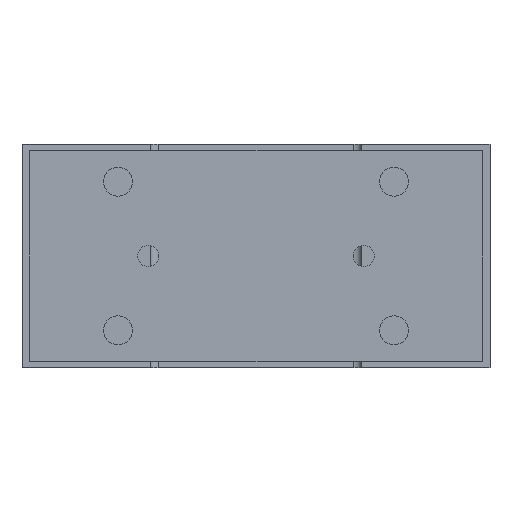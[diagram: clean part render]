
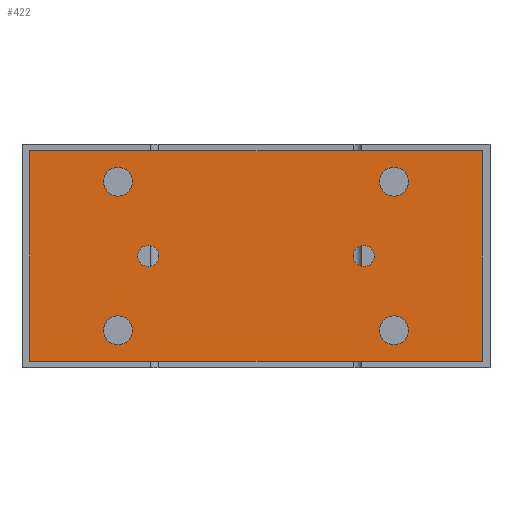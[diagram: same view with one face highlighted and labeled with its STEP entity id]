
A CAD part, left-side view. The second image highlights one B-rep face of the part: STEP entity #422.
In plain terms, the highlighted planar face has unit normal (-1, 0, 0).
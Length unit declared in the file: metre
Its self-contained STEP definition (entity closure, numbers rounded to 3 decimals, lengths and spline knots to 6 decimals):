
#422 = ADVANCED_FACE( '', ( #1021, #1022, #1023, #1024, #1025, #1026, #1027 ), #1028, .T. );
#1021 = FACE_BOUND( '', #1821, .T. );
#1022 = FACE_BOUND( '', #1822, .T. );
#1023 = FACE_BOUND( '', #1823, .T. );
#1024 = FACE_BOUND( '', #1824, .T. );
#1025 = FACE_BOUND( '', #1825, .T. );
#1026 = FACE_BOUND( '', #1826, .T. );
#1027 = FACE_OUTER_BOUND( '', #1827, .T. );
#1028 = PLANE( '', #1828 );
#1821 = EDGE_LOOP( '', ( #2961 ) );
#1822 = EDGE_LOOP( '', ( #2962 ) );
#1823 = EDGE_LOOP( '', ( #2963 ) );
#1824 = EDGE_LOOP( '', ( #2964 ) );
#1825 = EDGE_LOOP( '', ( #2965 ) );
#1826 = EDGE_LOOP( '', ( #2966 ) );
#1827 = EDGE_LOOP( '', ( #2967, #2968, #2969, #2970 ) );
#1828 = AXIS2_PLACEMENT_3D( '', #2971, #2972, #2973 );
#2961 = ORIENTED_EDGE( '', *, *, #4147, .F. );
#2962 = ORIENTED_EDGE( '', *, *, #3826, .F. );
#2963 = ORIENTED_EDGE( '', *, *, #4148, .F. );
#2964 = ORIENTED_EDGE( '', *, *, #4025, .F. );
#2965 = ORIENTED_EDGE( '', *, *, #4149, .F. );
#2966 = ORIENTED_EDGE( '', *, *, #4150, .T. );
#2967 = ORIENTED_EDGE( '', *, *, #4047, .T. );
#2968 = ORIENTED_EDGE( '', *, *, #4151, .T. );
#2969 = ORIENTED_EDGE( '', *, *, #4152, .T. );
#2970 = ORIENTED_EDGE( '', *, *, #4153, .T. );
#2971 = CARTESIAN_POINT( '', ( -0.118, -0.086, -0.0025 ) );
#2972 = DIRECTION( '', ( -1., 0., 0. ) );
#2973 = DIRECTION( '', ( 0., 0., 1. ) );
#3826 = EDGE_CURVE( '', #4402, #4402, #4403, .T. );
#4025 = EDGE_CURVE( '', #4738, #4738, #4739, .T. );
#4047 = EDGE_CURVE( '', #4773, #4771, #4774, .T. );
#4147 = EDGE_CURVE( '', #4919, #4919, #4920, .T. );
#4148 = EDGE_CURVE( '', #4921, #4921, #4922, .T. );
#4149 = EDGE_CURVE( '', #4923, #4923, #4924, .T. );
#4150 = EDGE_CURVE( '', #4925, #4925, #4926, .T. );
#4151 = EDGE_CURVE( '', #4771, #4927, #4928, .T. );
#4152 = EDGE_CURVE( '', #4927, #4929, #4930, .T. );
#4153 = EDGE_CURVE( '', #4929, #4773, #4931, .T. );
#4402 = VERTEX_POINT( '', #5303 );
#4403 = CIRCLE( '', #5304, 0.0055 );
#4738 = VERTEX_POINT( '', #5743 );
#4739 = CIRCLE( '', #5744, 0.0055 );
#4771 = VERTEX_POINT( '', #5789 );
#4773 = VERTEX_POINT( '', #5792 );
#4774 = LINE( '', #5793, #5794 );
#4919 = VERTEX_POINT( '', #6003 );
#4920 = CIRCLE( '', #6004, 0.0055 );
#4921 = VERTEX_POINT( '', #6005 );
#4922 = CIRCLE( '', #6006, 0.0055 );
#4923 = VERTEX_POINT( '', #6007 );
#4924 = CIRCLE( '', #6008, 0.004 );
#4925 = VERTEX_POINT( '', #6009 );
#4926 = CIRCLE( '', #6010, 0.004 );
#4927 = VERTEX_POINT( '', #6011 );
#4928 = LINE( '', #6012, #6013 );
#4929 = VERTEX_POINT( '', #6014 );
#4930 = LINE( '', #6015, #6016 );
#4931 = LINE( '', #6017, #6018 );
#5303 = CARTESIAN_POINT( '', ( -0.118, 0.0525, -0.06525 ) );
#5304 = AXIS2_PLACEMENT_3D( '', #6522, #6523, #6524 );
#5743 = CARTESIAN_POINT( '', ( -0.118, 0.0525, -0.00875 ) );
#5744 = AXIS2_PLACEMENT_3D( '', #6779, #6780, #6781 );
#5789 = CARTESIAN_POINT( '', ( -0.118, -0.086, -0.0025 ) );
#5792 = CARTESIAN_POINT( '', ( -0.118, -0.086, -0.0825 ) );
#5793 = CARTESIAN_POINT( '', ( -0.118, -0.086, -0.0825 ) );
#5794 = VECTOR( '', #6802, 1. );
#6003 = CARTESIAN_POINT( '', ( -0.118, -0.0525, -0.06525 ) );
#6004 = AXIS2_PLACEMENT_3D( '', #6927, #6928, #6929 );
#6005 = CARTESIAN_POINT( '', ( -0.118, -0.0525, -0.00875 ) );
#6006 = AXIS2_PLACEMENT_3D( '', #6930, #6931, #6932 );
#6007 = CARTESIAN_POINT( '', ( -0.118, -0.037, -0.0425 ) );
#6008 = AXIS2_PLACEMENT_3D( '', #6933, #6934, #6935 );
#6009 = CARTESIAN_POINT( '', ( -0.118, 0.037, -0.0425 ) );
#6010 = AXIS2_PLACEMENT_3D( '', #6936, #6937, #6938 );
#6011 = CARTESIAN_POINT( '', ( -0.118, 0.086, -0.0025 ) );
#6012 = CARTESIAN_POINT( '', ( -0.118, -0.086, -0.0025 ) );
#6013 = VECTOR( '', #6939, 1. );
#6014 = CARTESIAN_POINT( '', ( -0.118, 0.086, -0.0825 ) );
#6015 = CARTESIAN_POINT( '', ( -0.118, 0.086, -0.0025 ) );
#6016 = VECTOR( '', #6940, 1. );
#6017 = CARTESIAN_POINT( '', ( -0.118, 0.086, -0.0825 ) );
#6018 = VECTOR( '', #6941, 1. );
#6522 = CARTESIAN_POINT( '', ( -0.118, 0.0525, -0.07075 ) );
#6523 = DIRECTION( '', ( -1., 0., 0. ) );
#6524 = DIRECTION( '', ( 0., 0., 1. ) );
#6779 = CARTESIAN_POINT( '', ( -0.118, 0.0525, -0.01425 ) );
#6780 = DIRECTION( '', ( -1., 0., 0. ) );
#6781 = DIRECTION( '', ( 0., 0., 1. ) );
#6802 = DIRECTION( '', ( 0., 0., 1. ) );
#6927 = CARTESIAN_POINT( '', ( -0.118, -0.0525, -0.07075 ) );
#6928 = DIRECTION( '', ( -1., 0., 0. ) );
#6929 = DIRECTION( '', ( 0., 0., 1. ) );
#6930 = CARTESIAN_POINT( '', ( -0.118, -0.0525, -0.01425 ) );
#6931 = DIRECTION( '', ( -1., 0., 0. ) );
#6932 = DIRECTION( '', ( 0., 0., 1. ) );
#6933 = CARTESIAN_POINT( '', ( -0.118, -0.041, -0.0425 ) );
#6934 = DIRECTION( '', ( -1., 0., 0. ) );
#6935 = DIRECTION( '', ( 0., 1., 0. ) );
#6936 = CARTESIAN_POINT( '', ( -0.118, 0.041, -0.0425 ) );
#6937 = DIRECTION( '', ( 1., 0., 0. ) );
#6938 = DIRECTION( '', ( 0., -1., 0. ) );
#6939 = DIRECTION( '', ( 0., 1., 0. ) );
#6940 = DIRECTION( '', ( 0., 0., -1. ) );
#6941 = DIRECTION( '', ( 0., -1., 0. ) );
